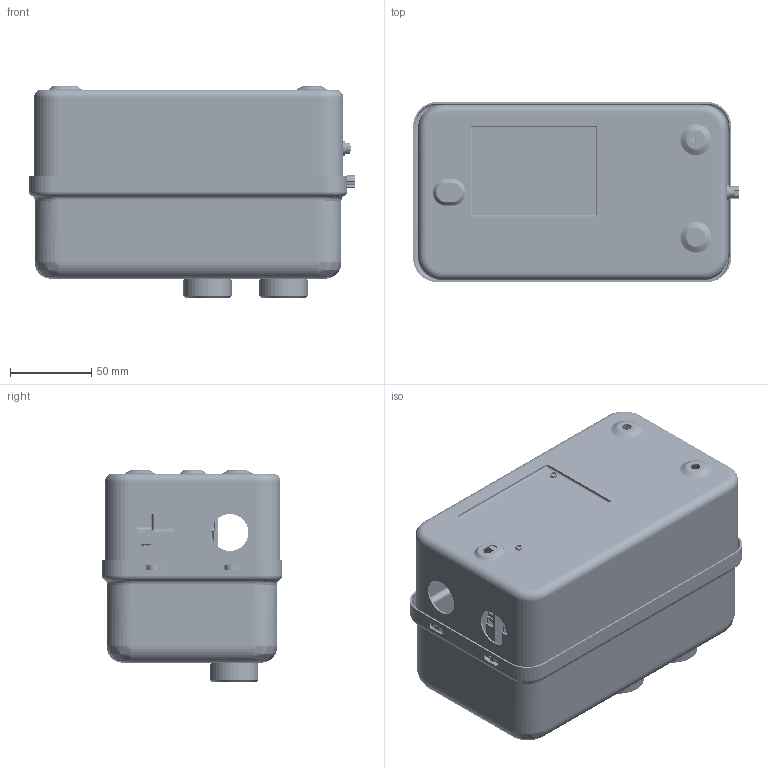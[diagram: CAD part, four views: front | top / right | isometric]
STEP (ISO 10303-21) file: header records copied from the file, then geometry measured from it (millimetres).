
FILE_DESCRIPTION((''),'2;1');
FILE_NAME('CDS2S-32B_ASM','2021-05-24T',('yunfei.yang'),(''),'PRO/ENGINEER BY PARAMETRIC TECHNOLOGY CORPORATION, 2015440','PRO/ENGINEER BY PARAMETRIC TECHNOLOGY CORPORATION, 2015440','');
FILE_SCHEMA(('CONFIG_CONTROL_DESIGN'));
Products named in the file (30): 8004002000; CDC6I-25; 7030100424_GB_T9074_8_M4X12; MANIFOLD_SOLID_BREP_92323; MANIFOLD_SOLID_BREP_94682; MANIFOLD_SOLID_BREP_97041; MANIFOLD_SOLID_BREP_99400; 2331003900_ASM_1_ASM; JR2H-38_ASM; 8004001900; PRT02; PRT0015; PRT0016; PRT0017; PRT0018; PRT0019; PRT0020; PRT0021; ASM0006_ASM; ASM0005_ASM; PRT0022; PRT0023; PRT0024; PRT0025; PRT0026; PRT0027; PRT0028; ASM0008_ASM; ASM0007_ASM; CDS2S-32B_ASM
Assembly tree (31 placements, depth 4):
  CDS2S-32B_ASM
    8004002000
    CDC6I-25
    7030100424_GB_T9074_8_M4X12  x3
    JR2H-38_ASM
      2331003900_ASM_1_ASM
        MANIFOLD_SOLID_BREP_92323
        MANIFOLD_SOLID_BREP_94682
        MANIFOLD_SOLID_BREP_97041
        MANIFOLD_SOLID_BREP_99400
    8004001900
    PRT02
    ASM0005_ASM
      ASM0006_ASM
        PRT0015
        PRT0016
        PRT0017
        PRT0018
        PRT0019
        PRT0020
        PRT0021
    ASM0007_ASM
      ASM0008_ASM
        PRT0022
        PRT0023
        PRT0024
        PRT0025
        PRT0026
        PRT0027
        PRT0028
Bounding box: 201.19 x 111 x 130.2 mm (x, y, z)
Volume: 566689.4 mm3; surface area: 397334.8 mm2
Topology: 25 solids, 38 shells, 10692 faces, 29629 edges, 18938 vertices
Faces by surface type: plane 6204, cylinder 2452, bspline 687, torus 423, extrusion 418, cone 411, sphere 97
Entity records: 378090 total; most frequent: CARTESIAN_POINT 110263, ORIENTED_EDGE 58814, DIRECTION 51598, EDGE_CURVE 29425, VECTOR 19406, LINE 18988, VERTEX_POINT 18854, AXIS2_PLACEMENT_3D 16096
